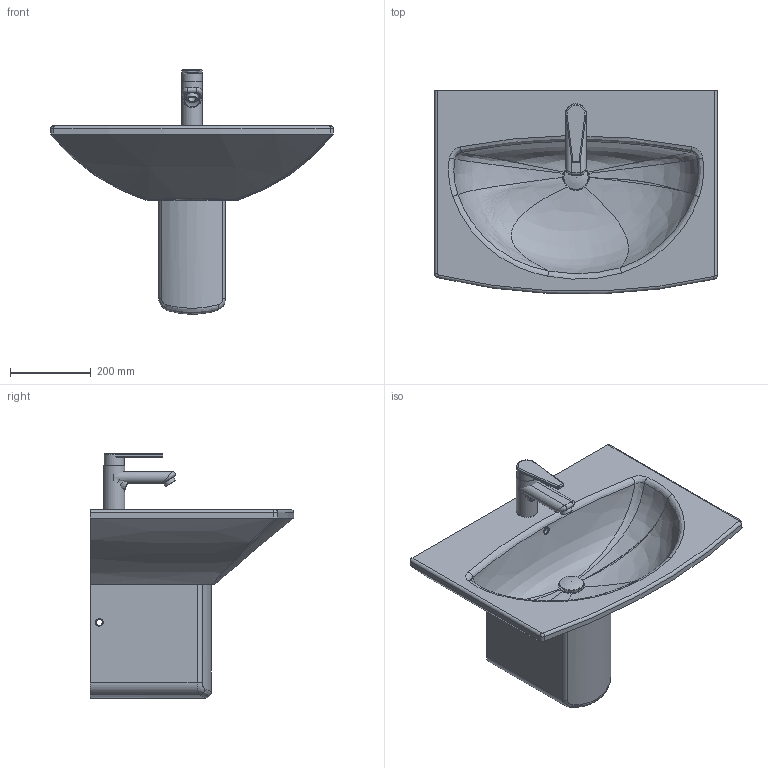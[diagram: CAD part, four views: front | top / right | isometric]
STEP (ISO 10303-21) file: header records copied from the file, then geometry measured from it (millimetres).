
FILE_DESCRIPTION((''),'2;1');
FILE_NAME('C:\Dokumente und Einstellungen\Huebner\Eigene Dateien\PRIVAT3\3D\CARO\CARO_STEP\043470_086326.stp','2008-01-14T17:56:25',('Huebner'),(''),'Autodesk Inventor 11','Autodesk Inventor 11','');
FILE_SCHEMA(('AUTOMOTIVE_DESIGN { 1 0 10303 214 1 1 1 1 }'));
Length unit declared in the file: millimetre
Products named in the file (11): 43470_86326; 43470; Kelch; Stopfen; Baterie_CARO_Wasch; hebel1; Neoperl; Hebel2; hebel4; hebel5Kugel; 86326
Assembly tree (10 placements, depth 3):
  43470_86326
    43470
    Kelch
    Stopfen
    Baterie_CARO_Wasch
      hebel1
      Neoperl
      Hebel2
      hebel4
      hebel5Kugel
    86326
Bounding box: 700 x 503.8 x 605.13 mm (x, y, z)
Volume: 24520607.6 mm3; surface area: 1637640.5 mm2
Topology: 9 solids, 9 shells, 209 faces, 508 edges, 317 vertices
Faces by surface type: cylinder 75, plane 63, bspline 48, torus 14, sphere 5, cone 4
Full cylindrical faces by diameter (mm): 15 x5, 20 x1, 29 x1, 30 x1, 42 x1, 44 x1, 46 x1, 50 x1, 52 x2, 60 x1, 75 x1
Entity records: 16681 total; most frequent: CARTESIAN_POINT 11888, ORIENTED_EDGE 940, DIRECTION 899, EDGE_CURVE 470, AXIS2_PLACEMENT_3D 361, VERTEX_POINT 310, EDGE_LOOP 252, FACE_OUTER_BOUND 209
